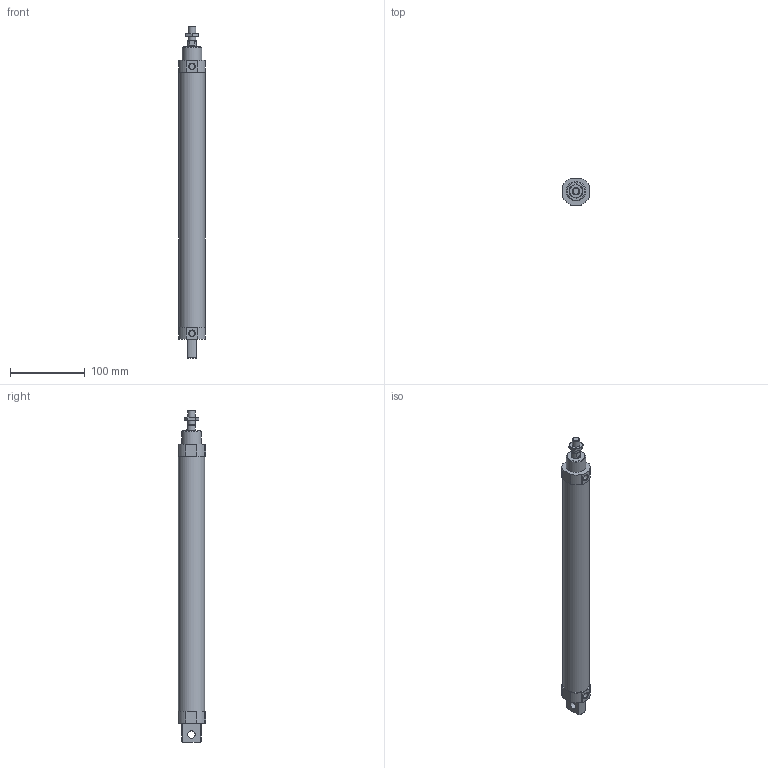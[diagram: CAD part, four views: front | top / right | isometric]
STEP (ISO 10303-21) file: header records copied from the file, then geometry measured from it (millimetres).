
FILE_DESCRIPTION((''),'2;1');
FILE_NAME('I:\3D電子目錄\氣缸\FDA\FDA\FDA\FDA30\FDA30x300.stp','2007-10-16T10:20:37',('66-2f-008'),(''),'Autodesk Inventor 11','Autodesk Inventor 11','');
FILE_SCHEMA(('AUTOMOTIVE_DESIGN { 1 0 10303 214 1 1 1 1 }'));
Length unit declared in the file: millimetre
Products named in the file (1): FDA30
Bounding box: 35 x 36.5 x 444 mm (x, y, z)
Volume: 381518.5 mm3; surface area: 48933.5 mm2
Topology: 1 solids, 1 shells, 79 faces, 184 edges, 114 vertices
Faces by surface type: plane 41, cone 20, cylinder 18
Full cylindrical faces by diameter (mm): 8 x2, 10 x3, 12 x1, 26 x1, 35 x1
Entity records: 2151 total; most frequent: CARTESIAN_POINT 426, DIRECTION 362, ORIENTED_EDGE 340, EDGE_CURVE 170, AXIS2_PLACEMENT_3D 144, VERTEX_POINT 112, EDGE_LOOP 100, FACE_OUTER_BOUND 79
